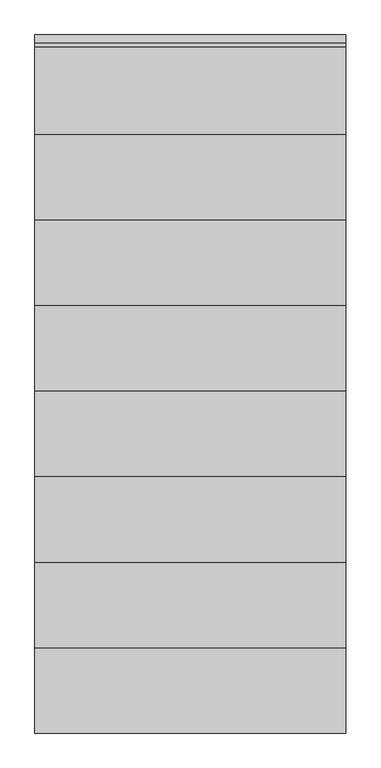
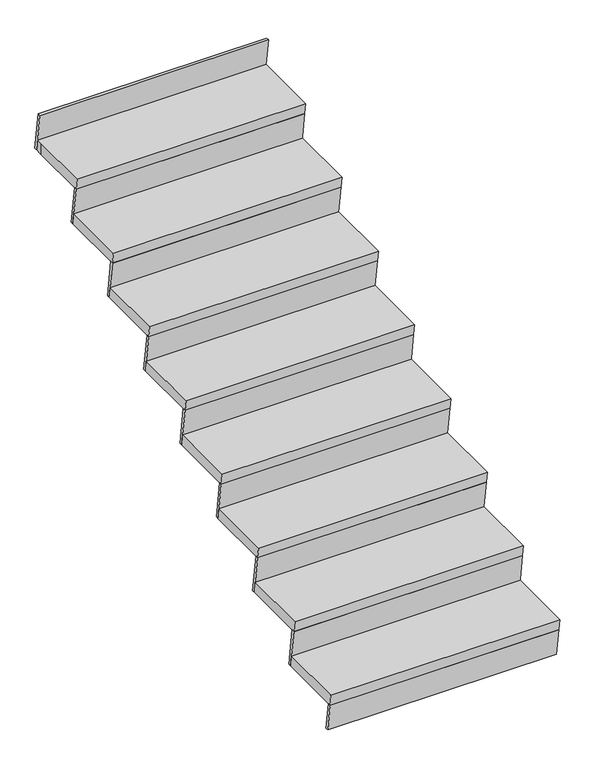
"""IFC4 building model written with IfcOpenShell, lengths in millimetres: stair flight geometry, Проступь 50 мм, свес 25 мм, подступенок 13 мм."""

from ifc_helpers import new_model, si_unit, origin, place, context, project, spatial, faceted_brep, source, transform, mapped, element, save


def stair_flight_b8b95e33(model_context):
    return source(origin(), model_context, "Body", "Brep", [
        faceted_brep([(-7002.2328055, 7099.5507128, 173.9130435), (-7002.2328055, 7106.7382128, 123.9130435), (-8002.2328055, 7106.7382128, 123.9130435), (-8002.2328055, 7099.5507128, 173.9130435), (-8002.2328055, 6799.5507128, 173.9130435), (-7002.2328055, 6799.5507128, 173.9130435), (-7002.2328055, 6806.7382128, 123.9130435), (-8002.2328055, 6806.7382128, 123.9130435)], [[[0, 1, 2, 3]], [[3, 4, 5, 0]], [[2, 1, 6, 7]], [[4, 3, 2, 7]], [[0, 5, 6, 1]], [[5, 4, 7, 6]]]),
        faceted_brep([(-7002.2328055, 6806.7382128, 123.9130435), (-7002.2328055, 6824.5507128, 0.0), (-7002.2328055, 6837.1792028, 0.0), (-7002.2328055, 6819.3667028, 123.9130435), (-8002.2328055, 6806.7382128, 123.9130435), (-8002.2328055, 6819.3667028, 123.9130435), (-8002.2328055, 6837.1792028, 0.0), (-8002.2328055, 6824.5507128, 0.0)], [[[0, 1, 2, 3]], [[4, 5, 6, 7]], [[1, 0, 4, 7]], [[2, 1, 7, 6]], [[3, 2, 6, 5]], [[0, 3, 5, 4]]]),
        faceted_brep([(-7002.2328055, 7081.7382128, 297.826087), (-7002.2328055, 7106.7382128, 123.9130435), (-7002.2328055, 7119.3667028, 123.9130435), (-7002.2328055, 7094.3667028, 297.826087), (-8002.2328055, 7081.7382128, 297.826087), (-8002.2328055, 7094.3667028, 297.826087), (-8002.2328055, 7119.3667028, 123.9130435), (-8002.2328055, 7106.7382128, 123.9130435)], [[[0, 1, 2, 3]], [[4, 5, 6, 7]], [[1, 0, 4, 7]], [[2, 1, 7, 6]], [[3, 2, 6, 5]], [[0, 3, 5, 4]]]),
        faceted_brep([(-8002.2328055, 7374.5507128, 347.826087), (-8002.2328055, 7074.5507128, 347.826087), (-7002.2328055, 7074.5507128, 347.826087), (-7002.2328055, 7374.5507128, 347.826087), (-8002.2328055, 7381.7382128, 297.826087), (-7002.2328055, 7381.7382128, 297.826087), (-7002.2328055, 7081.7382128, 297.826087), (-8002.2328055, 7081.7382128, 297.826087)], [[[0, 1, 2, 3]], [[4, 5, 6, 7]], [[1, 0, 4, 7]], [[3, 2, 6, 5]], [[3, 5, 4, 0]], [[2, 1, 7, 6]]]),
        faceted_brep([(-7002.2328055, 7356.7382128, 471.7391304), (-7002.2328055, 7381.7382128, 297.826087), (-7002.2328055, 7394.3667028, 297.826087), (-7002.2328055, 7369.3667028, 471.7391304), (-8002.2328055, 7356.7382128, 471.7391304), (-8002.2328055, 7369.3667028, 471.7391304), (-8002.2328055, 7394.3667028, 297.826087), (-8002.2328055, 7381.7382128, 297.826087)], [[[0, 1, 2, 3]], [[4, 5, 6, 7]], [[1, 0, 4, 7]], [[2, 1, 7, 6]], [[3, 2, 6, 5]], [[0, 3, 5, 4]]]),
        faceted_brep([(-8002.2328055, 7649.5507128, 521.7391304), (-8002.2328055, 7349.5507128, 521.7391304), (-7002.2328055, 7349.5507128, 521.7391304), (-7002.2328055, 7649.5507128, 521.7391304), (-8002.2328055, 7656.7382128, 471.7391304), (-7002.2328055, 7656.7382128, 471.7391304), (-7002.2328055, 7356.7382128, 471.7391304), (-8002.2328055, 7356.7382128, 471.7391304)], [[[0, 1, 2, 3]], [[4, 5, 6, 7]], [[1, 0, 4, 7]], [[3, 2, 6, 5]], [[3, 5, 4, 0]], [[2, 1, 7, 6]]]),
        faceted_brep([(-7002.2328055, 7631.7382128, 645.6521739), (-7002.2328055, 7656.7382128, 471.7391304), (-7002.2328055, 7669.3667028, 471.7391304), (-7002.2328055, 7644.3667028, 645.6521739), (-8002.2328055, 7631.7382128, 645.6521739), (-8002.2328055, 7644.3667028, 645.6521739), (-8002.2328055, 7669.3667028, 471.7391304), (-8002.2328055, 7656.7382128, 471.7391304)], [[[0, 1, 2, 3]], [[4, 5, 6, 7]], [[1, 0, 4, 7]], [[2, 1, 7, 6]], [[3, 2, 6, 5]], [[0, 3, 5, 4]]]),
        faceted_brep([(-8002.2328055, 7924.5507128, 695.6521739), (-8002.2328055, 7624.5507128, 695.6521739), (-7002.2328055, 7624.5507128, 695.6521739), (-7002.2328055, 7924.5507128, 695.6521739), (-8002.2328055, 7931.7382128, 645.6521739), (-7002.2328055, 7931.7382128, 645.6521739), (-7002.2328055, 7631.7382128, 645.6521739), (-8002.2328055, 7631.7382128, 645.6521739)], [[[0, 1, 2, 3]], [[4, 5, 6, 7]], [[1, 0, 4, 7]], [[3, 2, 6, 5]], [[3, 5, 4, 0]], [[2, 1, 7, 6]]]),
        faceted_brep([(-7002.2328055, 7906.7382128, 819.5652174), (-7002.2328055, 7931.7382128, 645.6521739), (-7002.2328055, 7944.3667028, 645.6521739), (-7002.2328055, 7919.3667028, 819.5652174), (-8002.2328055, 7906.7382128, 819.5652174), (-8002.2328055, 7919.3667028, 819.5652174), (-8002.2328055, 7944.3667028, 645.6521739), (-8002.2328055, 7931.7382128, 645.6521739)], [[[0, 1, 2, 3]], [[4, 5, 6, 7]], [[1, 0, 4, 7]], [[2, 1, 7, 6]], [[3, 2, 6, 5]], [[0, 3, 5, 4]]]),
        faceted_brep([(-8002.2328055, 8199.5507128, 869.5652174), (-8002.2328055, 7899.5507128, 869.5652174), (-7002.2328055, 7899.5507128, 869.5652174), (-7002.2328055, 8199.5507128, 869.5652174), (-8002.2328055, 8206.7382128, 819.5652174), (-7002.2328055, 8206.7382128, 819.5652174), (-7002.2328055, 7906.7382128, 819.5652174), (-8002.2328055, 7906.7382128, 819.5652174)], [[[0, 1, 2, 3]], [[4, 5, 6, 7]], [[1, 0, 4, 7]], [[3, 2, 6, 5]], [[3, 5, 4, 0]], [[2, 1, 7, 6]]]),
        faceted_brep([(-7002.2328055, 8181.7382128, 993.4782609), (-7002.2328055, 8206.7382128, 819.5652174), (-7002.2328055, 8219.3667028, 819.5652174), (-7002.2328055, 8194.3667028, 993.4782609), (-8002.2328055, 8181.7382128, 993.4782609), (-8002.2328055, 8194.3667028, 993.4782609), (-8002.2328055, 8219.3667028, 819.5652174), (-8002.2328055, 8206.7382128, 819.5652174)], [[[0, 1, 2, 3]], [[4, 5, 6, 7]], [[1, 0, 4, 7]], [[2, 1, 7, 6]], [[3, 2, 6, 5]], [[0, 3, 5, 4]]]),
        faceted_brep([(-8002.2328055, 8474.5507128, 1043.4782609), (-8002.2328055, 8174.5507128, 1043.4782609), (-7002.2328055, 8174.5507128, 1043.4782609), (-7002.2328055, 8474.5507128, 1043.4782609), (-8002.2328055, 8481.7382128, 993.4782609), (-7002.2328055, 8481.7382128, 993.4782609), (-7002.2328055, 8181.7382128, 993.4782609), (-8002.2328055, 8181.7382128, 993.4782609)], [[[0, 1, 2, 3]], [[4, 5, 6, 7]], [[1, 0, 4, 7]], [[3, 2, 6, 5]], [[3, 5, 4, 0]], [[2, 1, 7, 6]]]),
        faceted_brep([(-7002.2328055, 8456.7382128, 1167.3913043), (-7002.2328055, 8481.7382128, 993.4782609), (-7002.2328055, 8494.3667028, 993.4782609), (-7002.2328055, 8469.3667028, 1167.3913043), (-8002.2328055, 8456.7382128, 1167.3913043), (-8002.2328055, 8469.3667028, 1167.3913043), (-8002.2328055, 8494.3667028, 993.4782609), (-8002.2328055, 8481.7382128, 993.4782609)], [[[0, 1, 2, 3]], [[4, 5, 6, 7]], [[1, 0, 4, 7]], [[2, 1, 7, 6]], [[3, 2, 6, 5]], [[0, 3, 5, 4]]]),
        faceted_brep([(-8002.2328055, 8749.5507128, 1217.3913043), (-8002.2328055, 8449.5507128, 1217.3913043), (-7002.2328055, 8449.5507128, 1217.3913043), (-7002.2328055, 8749.5507128, 1217.3913043), (-8002.2328055, 8756.7382128, 1167.3913043), (-7002.2328055, 8756.7382128, 1167.3913043), (-7002.2328055, 8456.7382128, 1167.3913043), (-8002.2328055, 8456.7382128, 1167.3913043)], [[[0, 1, 2, 3]], [[4, 5, 6, 7]], [[1, 0, 4, 7]], [[3, 2, 6, 5]], [[3, 5, 4, 0]], [[2, 1, 7, 6]]]),
        faceted_brep([(-7002.2328055, 9006.7382128, 1515.2173913), (-7002.2328055, 9031.7382128, 1341.3043478), (-7002.2328055, 9044.3667028, 1341.3043478), (-7002.2328055, 9019.3667028, 1515.2173913), (-8002.2328055, 9006.7382128, 1515.2173913), (-8002.2328055, 9019.3667028, 1515.2173913), (-8002.2328055, 9044.3667028, 1341.3043478), (-8002.2328055, 9031.7382128, 1341.3043478)], [[[0, 1, 2, 3]], [[4, 5, 6, 7]], [[1, 0, 4, 7]], [[2, 1, 7, 6]], [[3, 2, 6, 5]], [[0, 3, 5, 4]]]),
        faceted_brep([(-7002.2328055, 8731.7382128, 1341.3043478), (-7002.2328055, 8756.7382128, 1167.3913043), (-7002.2328055, 8769.3667028, 1167.3913043), (-7002.2328055, 8744.3667028, 1341.3043478), (-8002.2328055, 8731.7382128, 1341.3043478), (-8002.2328055, 8744.3667028, 1341.3043478), (-8002.2328055, 8769.3667028, 1167.3913043), (-8002.2328055, 8756.7382128, 1167.3913043)], [[[0, 1, 2, 3]], [[4, 5, 6, 7]], [[1, 0, 4, 7]], [[2, 1, 7, 6]], [[3, 2, 6, 5]], [[0, 3, 5, 4]]]),
        faceted_brep([(-8002.2328055, 9024.5507128, 1391.3043478), (-8002.2328055, 8999.5507128, 1391.3043478), (-8002.2328055, 8724.5507128, 1391.3043478), (-7002.2328055, 8724.5507128, 1391.3043478), (-7002.2328055, 9024.5507128, 1391.3043478), (-8002.2328055, 9031.7382128, 1341.3043478), (-7002.2328055, 9031.7382128, 1341.3043478), (-7002.2328055, 8731.7382128, 1341.3043478), (-8002.2328055, 8731.7382128, 1341.3043478), (-8002.2328055, 8999.5507128, 1341.3043478)], [[[0, 1, 2, 3, 4]], [[5, 6, 7, 8, 9]], [[1, 0, 5, 9]], [[2, 1, 9, 8]], [[4, 3, 7, 6]], [[4, 6, 5, 0]], [[3, 2, 8, 7]]]),
    ])


if __name__ == "__main__":
    model = new_model("IFC4")
    model_context = context("Model", 3, world=origin())
    ifc_project = project(units=[si_unit("LENGTHUNIT", "METRE", prefix="MILLI")], contexts=[model_context])
    site = spatial("IfcSite", under=ifc_project)
    building = spatial("IfcBuilding", under=site)
    placement = place(None, origin())
    stair_flight_shape = stair_flight_b8b95e33(model_context)
    element("IfcStairFlight", 1, ObjectType="Проступь 50 мм, свес 25 мм, подступенок 13 мм", at=placement, inside=building, context=model_context, shape_type="MappedRepresentation", body=[
        mapped(stair_flight_shape, transform((0.0, 0.0, 0.0), x_axis=(1.0, 0.0, 0.0), y_axis=(0.0, 1.0, 0.0), z_axis=(0.0, 0.0, 1.0))),
    ])
    save(model, "model.ifc")
